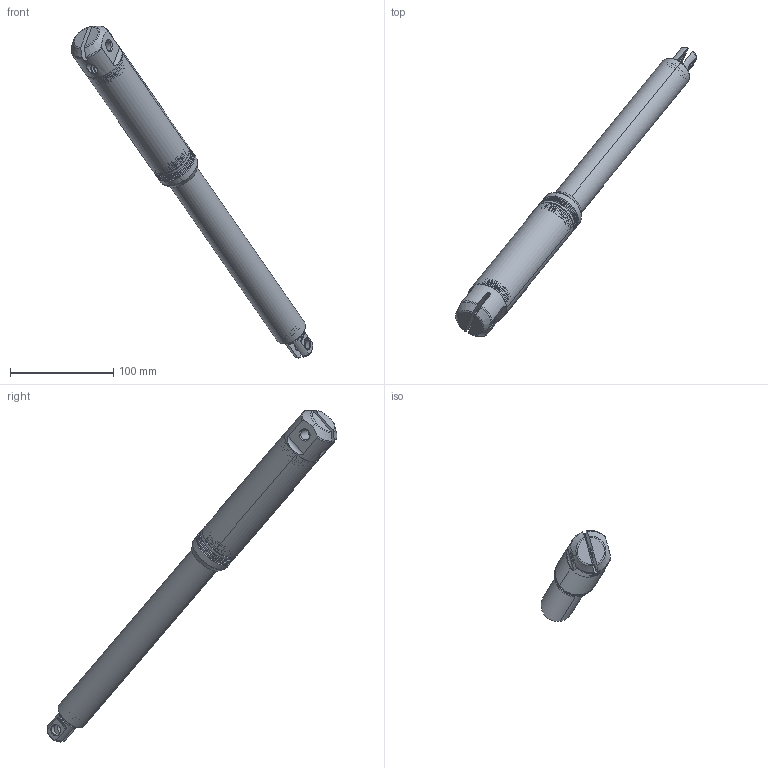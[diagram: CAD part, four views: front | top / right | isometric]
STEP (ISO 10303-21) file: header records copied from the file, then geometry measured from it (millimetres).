
FILE_DESCRIPTION (( 'STEP AP203' ), '1' );
FILE_NAME ('3D_JP6.STEP', '2023-10-18T02:28:24', ( '' ), ( '' ), 'SwSTEP 2.0', 'SolidWorks 2015', '' );
FILE_SCHEMA (( 'CONFIG_CONTROL_DESIGN' ));
Length unit declared in the file: inch
Products named in the file (2): 3D_JP6
Bounding box: 234.19 x 281.13 x 321.93 mm (x, y, z)
Volume: 144572.6 mm3; surface area: 142756.7 mm2
Topology: 7 solids, 7 shells, 422 faces, 1069 edges, 681 vertices
Faces by surface type: cylinder 224, cone 77, plane 59, torus 33, bspline 29
Entity records: 25129 total; most frequent: CARTESIAN_POINT 15617, ORIENTED_EDGE 2134, DIRECTION 1823, EDGE_CURVE 1067, AXIS2_PLACEMENT_3D 749, VERTEX_POINT 681, EDGE_LOOP 472, FACE_OUTER_BOUND 422
